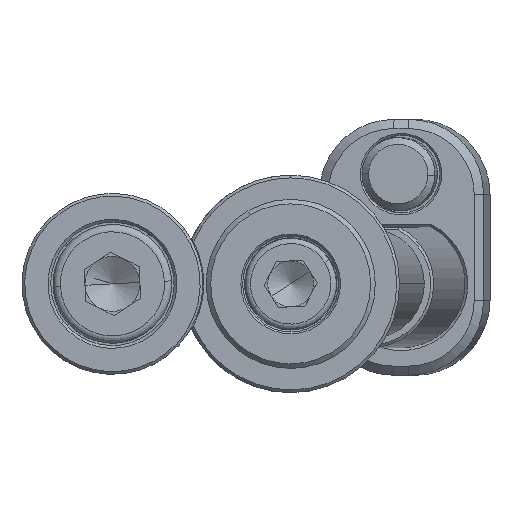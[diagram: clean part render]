
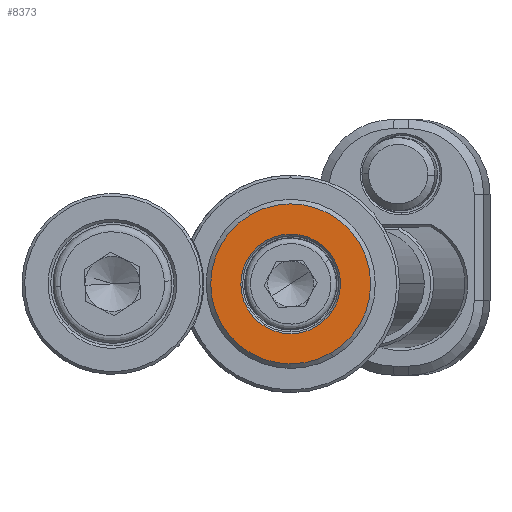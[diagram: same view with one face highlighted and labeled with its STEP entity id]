
A CAD part, front view. The second image highlights one B-rep face of the part: STEP entity #8373.
In plain terms, the highlighted planar face has unit normal (0, -1, 0).
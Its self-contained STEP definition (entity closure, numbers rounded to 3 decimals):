
#30 = EDGE_CURVE ( 'NONE', #5075, #13306, #3091, .T. ) ;
#255 = DIRECTION ( 'NONE',  ( -0.505, 0., 0.863 ) ) ;
#315 = ORIENTED_EDGE ( 'NONE', *, *, #30, .T. ) ;
#529 = CARTESIAN_POINT ( 'NONE',  ( 2.753, -4., -4.704 ) ) ;
#835 = CARTESIAN_POINT ( 'NONE',  ( 0., -4., 0. ) ) ;
#941 = EDGE_LOOP ( 'NONE', ( #5767, #11798 ) ) ;
#1269 = CARTESIAN_POINT ( 'NONE',  ( 0., -4., 0. ) ) ;
#1399 = DIRECTION ( 'NONE',  ( -0.505, 0., 0.863 ) ) ;
#2328 = EDGE_LOOP ( 'NONE', ( #315, #13395 ) ) ;
#2500 = DIRECTION ( 'NONE',  ( 0., 1., 0. ) ) ;
#3091 = CIRCLE ( 'NONE', #9557, 8.75 ) ;
#3170 = DIRECTION ( 'NONE',  ( 0., 1., 0. ) ) ;
#4986 = AXIS2_PLACEMENT_3D ( 'NONE', #8937, #2500, #1399 ) ;
#5075 = VERTEX_POINT ( 'NONE', #13198 ) ;
#5137 = AXIS2_PLACEMENT_3D ( 'NONE', #8701, #7456, #11885 ) ;
#5242 = DIRECTION ( 'NONE',  ( -0.505, 0., 0.863 ) ) ;
#5767 = ORIENTED_EDGE ( 'NONE', *, *, #11478, .T. ) ;
#5771 = CARTESIAN_POINT ( 'NONE',  ( 0., -4., 0. ) ) ;
#6681 = PLANE ( 'NONE',  #4986 ) ;
#6755 = CIRCLE ( 'NONE', #5137, 5.45 ) ;
#6817 = FACE_BOUND ( 'NONE', #941, .T. ) ;
#7456 = DIRECTION ( 'NONE',  ( 0., 1., 0. ) ) ;
#8094 = DIRECTION ( 'NONE',  ( 0., -1., 0. ) ) ;
#8167 = EDGE_CURVE ( 'NONE', #13306, #5075, #11973, .T. ) ;
#8286 = CIRCLE ( 'NONE', #11545, 5.45 ) ;
#8373 = ADVANCED_FACE ( 'NONE', ( #6817, #13362 ), #6681, .F. ) ;
#8701 = CARTESIAN_POINT ( 'NONE',  ( 0., -4., 0. ) ) ;
#8937 = CARTESIAN_POINT ( 'NONE',  ( -4.531, -4., -2.652 ) ) ;
#9095 = VERTEX_POINT ( 'NONE', #529 ) ;
#9557 = AXIS2_PLACEMENT_3D ( 'NONE', #5771, #8094, #255 ) ;
#10229 = VERTEX_POINT ( 'NONE', #10280 ) ;
#10280 = CARTESIAN_POINT ( 'NONE',  ( -2.753, -4., 4.704 ) ) ;
#11029 = AXIS2_PLACEMENT_3D ( 'NONE', #1269, #12507, #11051 ) ;
#11051 = DIRECTION ( 'NONE',  ( -0.505, 0., 0.863 ) ) ;
#11478 = EDGE_CURVE ( 'NONE', #9095, #10229, #8286, .T. ) ;
#11545 = AXIS2_PLACEMENT_3D ( 'NONE', #835, #3170, #5242 ) ;
#11798 = ORIENTED_EDGE ( 'NONE', *, *, #14252, .T. ) ;
#11885 = DIRECTION ( 'NONE',  ( -0.505, 0., 0.863 ) ) ;
#11973 = CIRCLE ( 'NONE', #11029, 8.75 ) ;
#12507 = DIRECTION ( 'NONE',  ( 0., -1., 0. ) ) ;
#13198 = CARTESIAN_POINT ( 'NONE',  ( -4.42, -4., 7.552 ) ) ;
#13264 = CARTESIAN_POINT ( 'NONE',  ( 4.42, -4., -7.552 ) ) ;
#13306 = VERTEX_POINT ( 'NONE', #13264 ) ;
#13362 = FACE_OUTER_BOUND ( 'NONE', #2328, .T. ) ;
#13395 = ORIENTED_EDGE ( 'NONE', *, *, #8167, .T. ) ;
#14252 = EDGE_CURVE ( 'NONE', #10229, #9095, #6755, .T. ) ;
